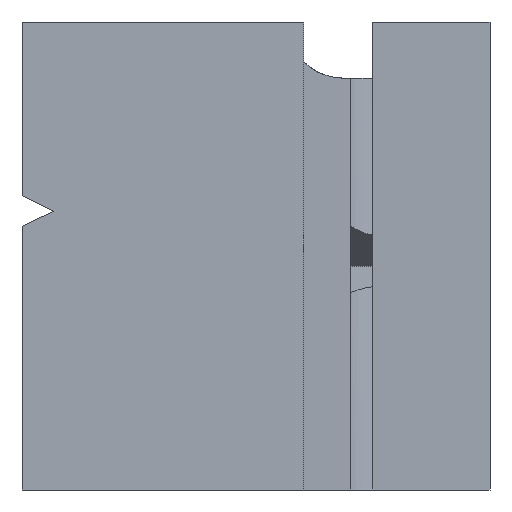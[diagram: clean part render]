
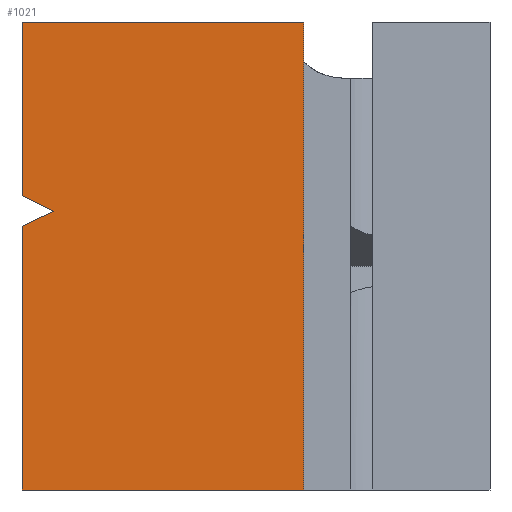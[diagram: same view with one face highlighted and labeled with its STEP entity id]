
A CAD part, left-side view. The second image highlights one B-rep face of the part: STEP entity #1021.
In plain terms, the highlighted planar face has unit normal (-1, 0, 0).
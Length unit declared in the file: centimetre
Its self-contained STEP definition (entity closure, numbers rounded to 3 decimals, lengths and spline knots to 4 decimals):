
#5 = CARTESIAN_POINT ( 'NONE',  ( 0., 932.0917, 595.9662 ) ) ;
#14 = CARTESIAN_POINT ( 'NONE',  ( 0., 1000., 1000. ) ) ;
#19 = EDGE_CURVE ( 'NONE', #288, #819, #995, .T. ) ;
#22 = CARTESIAN_POINT ( 'NONE',  ( 0., 1000., 1000. ) ) ;
#36 = CARTESIAN_POINT ( 'NONE',  ( 0., 398.4264, 0. ) ) ;
#45 = VECTOR ( 'NONE', #1228, 100. ) ;
#46 = CARTESIAN_POINT ( 'NONE',  ( 0., 1000., 1000. ) ) ;
#51 = LINE ( 'NONE', #613, #862 ) ;
#60 = DIRECTION ( 'NONE',  ( 0., 0., -1. ) ) ;
#65 = EDGE_LOOP ( 'NONE', ( #888, #320, #911, #274, #189, #665, #584 ) ) ;
#67 = CARTESIAN_POINT ( 'NONE',  ( 0., 1000., 1000. ) ) ;
#121 = EDGE_CURVE ( 'NONE', #1054, #286, #440, .T. ) ;
#137 = EDGE_CURVE ( 'NONE', #962, #287, #349, .T. ) ;
#149 = CARTESIAN_POINT ( 'NONE',  ( 0., 398.4264, 1000. ) ) ;
#189 = ORIENTED_EDGE ( 'NONE', *, *, #539, .T. ) ;
#215 = EDGE_CURVE ( 'NONE', #1054, #288, #1067, .T. ) ;
#274 = ORIENTED_EDGE ( 'NONE', *, *, #121, .T. ) ;
#286 = VERTEX_POINT ( 'NONE', #1052 ) ;
#287 = VERTEX_POINT ( 'NONE', #518 ) ;
#288 = VERTEX_POINT ( 'NONE', #149 ) ;
#320 = ORIENTED_EDGE ( 'NONE', *, *, #19, .F. ) ;
#333 = DIRECTION ( 'NONE',  ( 0., 0., -1. ) ) ;
#349 = LINE ( 'NONE', #22, #45 ) ;
#358 = LINE ( 'NONE', #913, #522 ) ;
#372 = DIRECTION ( 'NONE',  ( 0., -1., 0. ) ) ;
#377 = EDGE_CURVE ( 'NONE', #287, #819, #1088, .T. ) ;
#440 = LINE ( 'NONE', #14, #736 ) ;
#457 = AXIS2_PLACEMENT_3D ( 'NONE', #67, #936, #60 ) ;
#511 = VECTOR ( 'NONE', #372, 100. ) ;
#518 = CARTESIAN_POINT ( 'NONE',  ( 0., 1000., 0. ) ) ;
#522 = VECTOR ( 'NONE', #1229, 100. ) ;
#539 = EDGE_CURVE ( 'NONE', #286, #814, #51, .T. ) ;
#582 = VECTOR ( 'NONE', #1343, 100. ) ;
#584 = ORIENTED_EDGE ( 'NONE', *, *, #137, .T. ) ;
#613 = CARTESIAN_POINT ( 'NONE',  ( 0., 932.0917, 595.9662 ) ) ;
#665 = ORIENTED_EDGE ( 'NONE', *, *, #1339, .T. ) ;
#666 = CARTESIAN_POINT ( 'NONE',  ( 0., 1000., 0. ) ) ;
#673 = CARTESIAN_POINT ( 'NONE',  ( 0., 1000., 563.3503 ) ) ;
#699 = DIRECTION ( 'NONE',  ( 0., 0., -1. ) ) ;
#736 = VECTOR ( 'NONE', #333, 100. ) ;
#797 = CARTESIAN_POINT ( 'NONE',  ( 0., 398.4264, 1000. ) ) ;
#814 = VERTEX_POINT ( 'NONE', #5 ) ;
#815 = CARTESIAN_POINT ( 'NONE',  ( 0., 1000., 1000. ) ) ;
#819 = VERTEX_POINT ( 'NONE', #36 ) ;
#823 = DIRECTION ( 'NONE',  ( 0., -0.901, -0.433 ) ) ;
#862 = VECTOR ( 'NONE', #823, 100. ) ;
#888 = ORIENTED_EDGE ( 'NONE', *, *, #377, .T. ) ;
#911 = ORIENTED_EDGE ( 'NONE', *, *, #215, .F. ) ;
#913 = CARTESIAN_POINT ( 'NONE',  ( 0., 1000., 563.3503 ) ) ;
#936 = DIRECTION ( 'NONE',  ( 1., 0., 0. ) ) ;
#962 = VERTEX_POINT ( 'NONE', #673 ) ;
#995 = LINE ( 'NONE', #797, #1077 ) ;
#1021 = ADVANCED_FACE ( 'NONE', ( #1392 ), #1266, .F. ) ;
#1052 = CARTESIAN_POINT ( 'NONE',  ( 0., 1000., 628.5821 ) ) ;
#1054 = VERTEX_POINT ( 'NONE', #46 ) ;
#1067 = LINE ( 'NONE', #815, #511 ) ;
#1077 = VECTOR ( 'NONE', #699, 100. ) ;
#1088 = LINE ( 'NONE', #666, #582 ) ;
#1228 = DIRECTION ( 'NONE',  ( 0., 0., -1. ) ) ;
#1229 = DIRECTION ( 'NONE',  ( 0., 0.901, -0.433 ) ) ;
#1266 = PLANE ( 'NONE',  #457 ) ;
#1339 = EDGE_CURVE ( 'NONE', #814, #962, #358, .T. ) ;
#1343 = DIRECTION ( 'NONE',  ( 0., -1., 0. ) ) ;
#1392 = FACE_OUTER_BOUND ( 'NONE', #65, .T. ) ;
